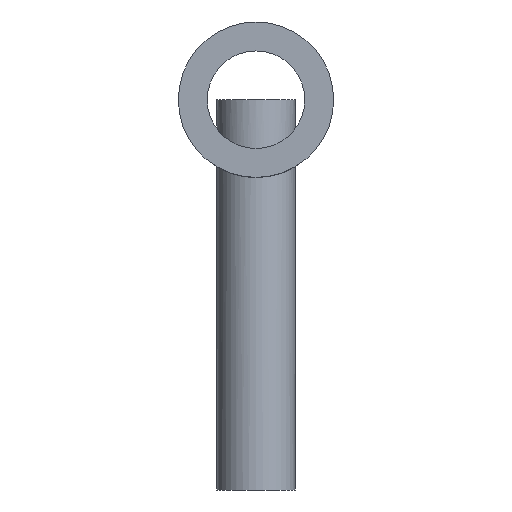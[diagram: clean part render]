
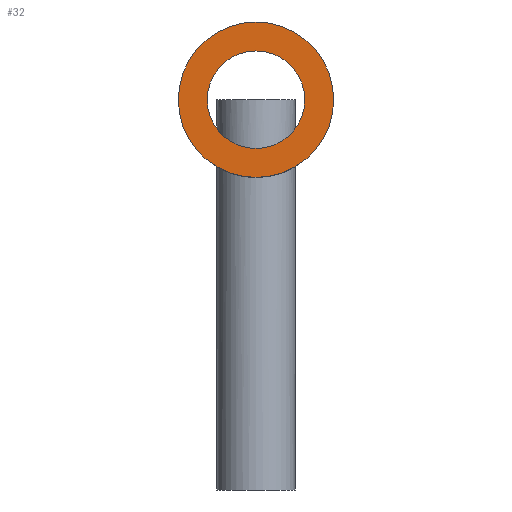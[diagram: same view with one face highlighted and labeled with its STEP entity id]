
A CAD part, front view. The second image highlights one B-rep face of the part: STEP entity #32.
In plain terms, the highlighted planar face has unit normal (0, -1, 0).
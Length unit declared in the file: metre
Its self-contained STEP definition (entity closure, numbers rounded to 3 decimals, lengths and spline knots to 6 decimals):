
#32 = ADVANCED_FACE( '', ( #65, #66 ), #67, .T. );
#65 = FACE_OUTER_BOUND( '', #104, .T. );
#66 = FACE_BOUND( '', #105, .T. );
#67 = PLANE( '', #106 );
#104 = EDGE_LOOP( '', ( #137 ) );
#105 = EDGE_LOOP( '', ( #138 ) );
#106 = AXIS2_PLACEMENT_3D( '', #139, #140, #141 );
#137 = ORIENTED_EDGE( '', *, *, #185, .T. );
#138 = ORIENTED_EDGE( '', *, *, #186, .T. );
#139 = CARTESIAN_POINT( '', ( 0., -0.03, 0.235 ) );
#140 = DIRECTION( '', ( 0., -1., 0. ) );
#141 = DIRECTION( '', ( 1., 0., 0. ) );
#185 = EDGE_CURVE( '', #201, #201, #202, .T. );
#186 = EDGE_CURVE( '', #203, #203, #204, .T. );
#201 = VERTEX_POINT( '', #225 );
#202 = CIRCLE( '', #226, 0.019914 );
#203 = VERTEX_POINT( '', #227 );
#204 = CIRCLE( '', #228, 0.0125 );
#225 = CARTESIAN_POINT( '', ( 0., -0.03, 0.215086 ) );
#226 = AXIS2_PLACEMENT_3D( '', #451, #452, #453 );
#227 = CARTESIAN_POINT( '', ( 0., -0.03, 0.2225 ) );
#228 = AXIS2_PLACEMENT_3D( '', #454, #455, #456 );
#451 = CARTESIAN_POINT( '', ( 0., -0.03, 0.235 ) );
#452 = DIRECTION( '', ( 0., -1., 0. ) );
#453 = DIRECTION( '', ( 0., 0., -1. ) );
#454 = CARTESIAN_POINT( '', ( 0., -0.03, 0.235 ) );
#455 = DIRECTION( '', ( 0., 1., 0. ) );
#456 = DIRECTION( '', ( 0., 0., -1. ) );
